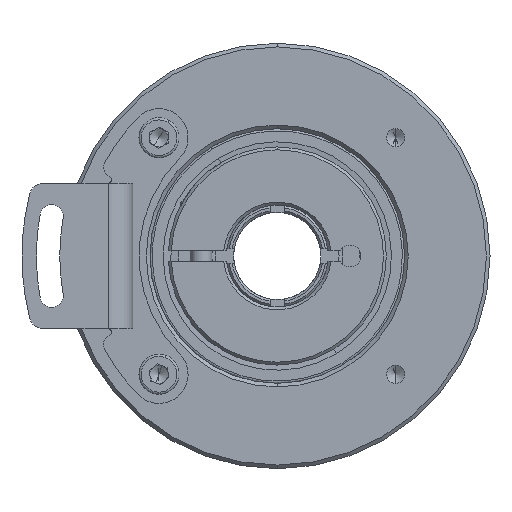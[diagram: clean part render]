
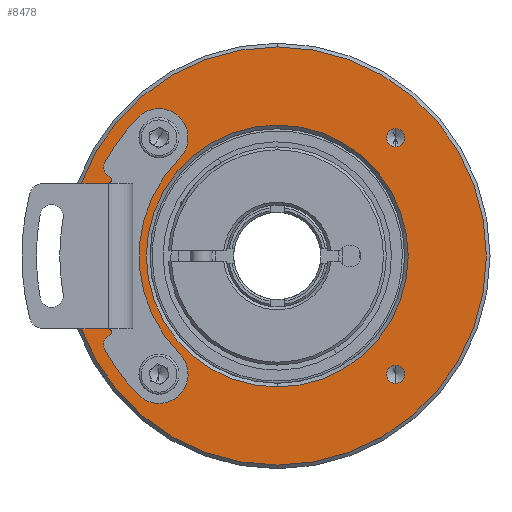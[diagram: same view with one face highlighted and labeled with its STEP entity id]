
A CAD part, front view. The second image highlights one B-rep face of the part: STEP entity #8478.
In plain terms, the highlighted planar face has unit normal (0, -1, 0).
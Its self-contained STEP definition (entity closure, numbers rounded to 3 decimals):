
#30 = DIRECTION ( 'NONE',  ( 0., -1., 0. ) ) ;
#104 = DIRECTION ( 'NONE',  ( 0., -1., 0. ) ) ;
#110 = EDGE_CURVE ( 'NONE', #10515, #14465, #12751, .T. ) ;
#355 = ORIENTED_EDGE ( 'NONE', *, *, #6893, .F. ) ;
#1073 = CARTESIAN_POINT ( 'NONE',  ( -16.263, 0., -17.513 ) ) ;
#1124 = CIRCLE ( 'NONE', #14075, 18. ) ;
#1213 = CARTESIAN_POINT ( 'NONE',  ( -16.263, 0., 16.263 ) ) ;
#1434 = CARTESIAN_POINT ( 'NONE',  ( 0., 0., -28.75 ) ) ;
#1452 = DIRECTION ( 'NONE',  ( 0., 0., -1. ) ) ;
#1465 = VERTEX_POINT ( 'NONE', #16598 ) ;
#1490 = DIRECTION ( 'NONE',  ( 0., 0., -1. ) ) ;
#1565 = AXIS2_PLACEMENT_3D ( 'NONE', #9592, #6755, #1452 ) ;
#1834 = AXIS2_PLACEMENT_3D ( 'NONE', #10837, #12215, #13538 ) ;
#1841 = AXIS2_PLACEMENT_3D ( 'NONE', #14585, #7869, #3890 ) ;
#1854 = CARTESIAN_POINT ( 'NONE',  ( 16.263, 0., 17.513 ) ) ;
#1986 = EDGE_CURVE ( 'NONE', #2172, #1465, #5665, .T. ) ;
#2172 = VERTEX_POINT ( 'NONE', #13718 ) ;
#2682 = CIRCLE ( 'NONE', #17232, 1.25 ) ;
#2945 = DIRECTION ( 'NONE',  ( 0., -1., 0. ) ) ;
#3101 = VERTEX_POINT ( 'NONE', #10523 ) ;
#3215 = DIRECTION ( 'NONE',  ( 0., 0., -1. ) ) ;
#3450 = CIRCLE ( 'NONE', #9804, 1.25 ) ;
#3489 = EDGE_CURVE ( 'NONE', #14477, #7292, #2682, .T. ) ;
#3531 = CARTESIAN_POINT ( 'NONE',  ( 0., 0., 28.75 ) ) ;
#3648 = DIRECTION ( 'NONE',  ( 0., 1., 0. ) ) ;
#3852 = ORIENTED_EDGE ( 'NONE', *, *, #12034, .F. ) ;
#3890 = DIRECTION ( 'NONE',  ( 0., 0., -1. ) ) ;
#3930 = DIRECTION ( 'NONE',  ( 0., 0., -1. ) ) ;
#4344 = EDGE_LOOP ( 'NONE', ( #355, #11252 ) ) ;
#4574 = CIRCLE ( 'NONE', #1834, 1.25 ) ;
#4972 = CIRCLE ( 'NONE', #6020, 1.25 ) ;
#4997 = FACE_BOUND ( 'NONE', #5165, .T. ) ;
#5165 = EDGE_LOOP ( 'NONE', ( #5320, #11122 ) ) ;
#5219 = PLANE ( 'NONE',  #15327 ) ;
#5320 = ORIENTED_EDGE ( 'NONE', *, *, #1986, .T. ) ;
#5325 = DIRECTION ( 'NONE',  ( 0., -1., 0. ) ) ;
#5342 = DIRECTION ( 'NONE',  ( 0., 1., 0. ) ) ;
#5363 = VERTEX_POINT ( 'NONE', #15188 ) ;
#5665 = CIRCLE ( 'NONE', #12894, 18. ) ;
#5767 = CARTESIAN_POINT ( 'NONE',  ( -16.263, 0., -16.263 ) ) ;
#5834 = ORIENTED_EDGE ( 'NONE', *, *, #3489, .F. ) ;
#6020 = AXIS2_PLACEMENT_3D ( 'NONE', #9501, #104, #16345 ) ;
#6297 = ORIENTED_EDGE ( 'NONE', *, *, #15473, .F. ) ;
#6569 = CIRCLE ( 'NONE', #9694, 1.25 ) ;
#6658 = EDGE_CURVE ( 'NONE', #9564, #9195, #3450, .T. ) ;
#6697 = DIRECTION ( 'NONE',  ( 0., 0., -1. ) ) ;
#6755 = DIRECTION ( 'NONE',  ( 0., -1., 0. ) ) ;
#6893 = EDGE_CURVE ( 'NONE', #5363, #3101, #6569, .T. ) ;
#7031 = EDGE_CURVE ( 'NONE', #14465, #10515, #8943, .T. ) ;
#7292 = VERTEX_POINT ( 'NONE', #1854 ) ;
#7334 = AXIS2_PLACEMENT_3D ( 'NONE', #16172, #5325, #3930 ) ;
#7655 = EDGE_LOOP ( 'NONE', ( #5834, #6297 ) ) ;
#7695 = ORIENTED_EDGE ( 'NONE', *, *, #8447, .F. ) ;
#7869 = DIRECTION ( 'NONE',  ( 0., -1., 0. ) ) ;
#8447 = EDGE_CURVE ( 'NONE', #9195, #9564, #4574, .T. ) ;
#8472 = VERTEX_POINT ( 'NONE', #14739 ) ;
#8478 = ADVANCED_FACE ( 'NONE', ( #4997, #15600, #10128, #17474, #9674, #13930 ), #5219, .T. ) ;
#8661 = CARTESIAN_POINT ( 'NONE',  ( 16.263, 0., 15.013 ) ) ;
#8943 = CIRCLE ( 'NONE', #1841, 28.75 ) ;
#9195 = VERTEX_POINT ( 'NONE', #16449 ) ;
#9376 = DIRECTION ( 'NONE',  ( 0., -1., 0. ) ) ;
#9501 = CARTESIAN_POINT ( 'NONE',  ( 16.263, 0., -16.263 ) ) ;
#9564 = VERTEX_POINT ( 'NONE', #1073 ) ;
#9592 = CARTESIAN_POINT ( 'NONE',  ( 16.263, 0., 16.263 ) ) ;
#9674 = FACE_BOUND ( 'NONE', #15534, .T. ) ;
#9694 = AXIS2_PLACEMENT_3D ( 'NONE', #1213, #17265, #17480 ) ;
#9704 = CARTESIAN_POINT ( 'NONE',  ( 16.263, 0., 16.263 ) ) ;
#9743 = CARTESIAN_POINT ( 'NONE',  ( 0., 0., 0. ) ) ;
#9804 = AXIS2_PLACEMENT_3D ( 'NONE', #5767, #9376, #14825 ) ;
#10042 = DIRECTION ( 'NONE',  ( 0., -1., 0. ) ) ;
#10128 = FACE_BOUND ( 'NONE', #7655, .T. ) ;
#10163 = CARTESIAN_POINT ( 'NONE',  ( 0., 0., 0. ) ) ;
#10180 = CIRCLE ( 'NONE', #7334, 1.25 ) ;
#10211 = EDGE_LOOP ( 'NONE', ( #16765, #16904 ) ) ;
#10515 = VERTEX_POINT ( 'NONE', #3531 ) ;
#10523 = CARTESIAN_POINT ( 'NONE',  ( -16.263, 0., 17.513 ) ) ;
#10837 = CARTESIAN_POINT ( 'NONE',  ( -16.263, 0., -16.263 ) ) ;
#11122 = ORIENTED_EDGE ( 'NONE', *, *, #15508, .T. ) ;
#11252 = ORIENTED_EDGE ( 'NONE', *, *, #15879, .F. ) ;
#11588 = DIRECTION ( 'NONE',  ( 0., 0., -1. ) ) ;
#11793 = AXIS2_PLACEMENT_3D ( 'NONE', #10163, #10042, #11588 ) ;
#11798 = CARTESIAN_POINT ( 'NONE',  ( 0., 0., 0. ) ) ;
#12034 = EDGE_CURVE ( 'NONE', #16269, #8472, #10180, .T. ) ;
#12215 = DIRECTION ( 'NONE',  ( 0., -1., 0. ) ) ;
#12275 = DIRECTION ( 'NONE',  ( 0., -1., 0. ) ) ;
#12430 = CARTESIAN_POINT ( 'NONE',  ( -16.263, 0., 16.263 ) ) ;
#12751 = CIRCLE ( 'NONE', #11793, 28.75 ) ;
#12894 = AXIS2_PLACEMENT_3D ( 'NONE', #11798, #3648, #3215 ) ;
#13027 = CIRCLE ( 'NONE', #13403, 1.25 ) ;
#13403 = AXIS2_PLACEMENT_3D ( 'NONE', #12430, #2945, #13999 ) ;
#13498 = CARTESIAN_POINT ( 'NONE',  ( 0., 0., 0. ) ) ;
#13538 = DIRECTION ( 'NONE',  ( 0., 0., -1. ) ) ;
#13663 = CIRCLE ( 'NONE', #1565, 1.25 ) ;
#13718 = CARTESIAN_POINT ( 'NONE',  ( 0., 0., -18. ) ) ;
#13802 = DIRECTION ( 'NONE',  ( 0., 0., -1. ) ) ;
#13930 = FACE_OUTER_BOUND ( 'NONE', #10211, .T. ) ;
#13999 = DIRECTION ( 'NONE',  ( 0., 0., -1. ) ) ;
#14075 = AXIS2_PLACEMENT_3D ( 'NONE', #13498, #5342, #6697 ) ;
#14465 = VERTEX_POINT ( 'NONE', #1434 ) ;
#14477 = VERTEX_POINT ( 'NONE', #8661 ) ;
#14585 = CARTESIAN_POINT ( 'NONE',  ( 0., 0., 0. ) ) ;
#14739 = CARTESIAN_POINT ( 'NONE',  ( 16.263, 0., -17.513 ) ) ;
#14825 = DIRECTION ( 'NONE',  ( 0., 0., -1. ) ) ;
#15188 = CARTESIAN_POINT ( 'NONE',  ( -16.263, 0., 15.013 ) ) ;
#15327 = AXIS2_PLACEMENT_3D ( 'NONE', #9743, #12275, #1490 ) ;
#15473 = EDGE_CURVE ( 'NONE', #7292, #14477, #13663, .T. ) ;
#15508 = EDGE_CURVE ( 'NONE', #1465, #2172, #1124, .T. ) ;
#15534 = EDGE_LOOP ( 'NONE', ( #16956, #3852 ) ) ;
#15600 = FACE_BOUND ( 'NONE', #4344, .T. ) ;
#15866 = ORIENTED_EDGE ( 'NONE', *, *, #6658, .F. ) ;
#15879 = EDGE_CURVE ( 'NONE', #3101, #5363, #13027, .T. ) ;
#15996 = EDGE_LOOP ( 'NONE', ( #15866, #7695 ) ) ;
#16172 = CARTESIAN_POINT ( 'NONE',  ( 16.263, 0., -16.263 ) ) ;
#16269 = VERTEX_POINT ( 'NONE', #17428 ) ;
#16345 = DIRECTION ( 'NONE',  ( 0., 0., -1. ) ) ;
#16449 = CARTESIAN_POINT ( 'NONE',  ( -16.263, 0., -15.013 ) ) ;
#16598 = CARTESIAN_POINT ( 'NONE',  ( 0., 0., 18. ) ) ;
#16689 = EDGE_CURVE ( 'NONE', #8472, #16269, #4972, .T. ) ;
#16765 = ORIENTED_EDGE ( 'NONE', *, *, #110, .T. ) ;
#16904 = ORIENTED_EDGE ( 'NONE', *, *, #7031, .T. ) ;
#16956 = ORIENTED_EDGE ( 'NONE', *, *, #16689, .F. ) ;
#17232 = AXIS2_PLACEMENT_3D ( 'NONE', #9704, #30, #13802 ) ;
#17265 = DIRECTION ( 'NONE',  ( 0., -1., 0. ) ) ;
#17428 = CARTESIAN_POINT ( 'NONE',  ( 16.263, 0., -15.013 ) ) ;
#17474 = FACE_BOUND ( 'NONE', #15996, .T. ) ;
#17480 = DIRECTION ( 'NONE',  ( 0., 0., -1. ) ) ;
